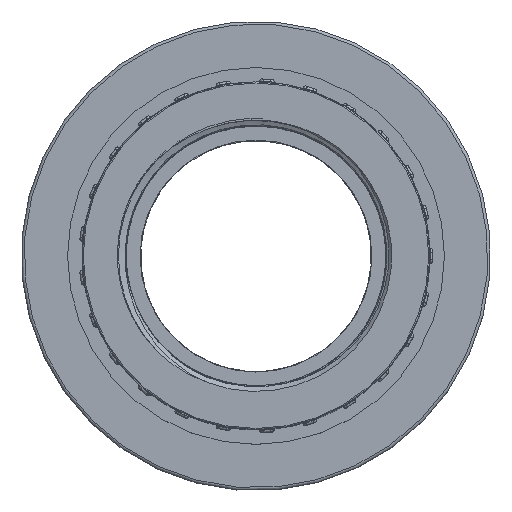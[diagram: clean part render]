
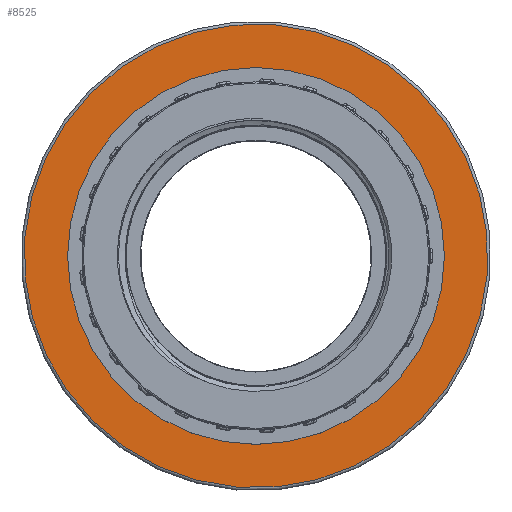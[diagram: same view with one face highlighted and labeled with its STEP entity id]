
A CAD part, top view. The second image highlights one B-rep face of the part: STEP entity #8525.
In plain terms, the highlighted planar face has unit normal (0, 0, 1).
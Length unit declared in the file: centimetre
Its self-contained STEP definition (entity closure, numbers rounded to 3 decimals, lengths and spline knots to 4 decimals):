
#1611=FACE_BOUND('',#2414,.T.);
#1928=FACE_OUTER_BOUND('',#2413,.T.);
#2413=EDGE_LOOP('',(#6687));
#2414=EDGE_LOOP('',(#6688));
#2598=CIRCLE('',#8714,3.25);
#2907=CIRCLE('',#9258,4.);
#3118=VERTEX_POINT('',#15023);
#3586=VERTEX_POINT('',#20735);
#3923=EDGE_CURVE('',#3118,#3118,#2598,.T.);
#4673=EDGE_CURVE('',#3586,#3586,#2907,.T.);
#6687=ORIENTED_EDGE('',*,*,#4673,.F.);
#6688=ORIENTED_EDGE('',*,*,#3923,.T.);
#7716=PLANE('',#9260);
#8525=ADVANCED_FACE('',(#1928,#1611),#7716,.T.);
#8714=AXIS2_PLACEMENT_3D('',#15024,#9602,#9603);
#9258=AXIS2_PLACEMENT_3D('',#20736,#11068,#11069);
#9260=AXIS2_PLACEMENT_3D('',#20739,#11072,#11073);
#9602=DIRECTION('center_axis',(0.,0.,
-1.));
#9603=DIRECTION('ref_axis',(1.,0.,0.));
#11068=DIRECTION('center_axis',(0.,0.,
-1.));
#11069=DIRECTION('ref_axis',(0.419,0.908,0.));
#11072=DIRECTION('center_axis',(0.,0.,
1.));
#11073=DIRECTION('ref_axis',(0.908,-0.419,0.));
#15023=CARTESIAN_POINT('',(-3.25,0.,1.94));
#15024=CARTESIAN_POINT('Origin',(0.,0.,
1.94));
#20735=CARTESIAN_POINT('',(-1.6775,-3.6313,1.94));
#20736=CARTESIAN_POINT('Origin',(0.,0.,
1.94));
#20739=CARTESIAN_POINT('Origin',(-1.6985,-3.6766,1.94));
